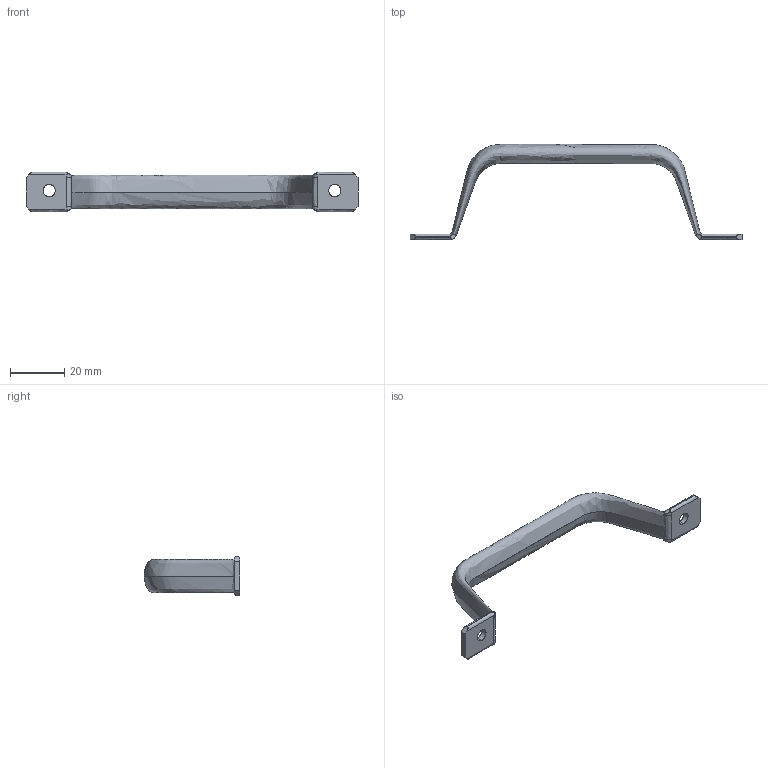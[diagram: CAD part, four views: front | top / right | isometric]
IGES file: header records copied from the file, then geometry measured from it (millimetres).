
Start section: SolidWorks IGES FILE using analytic representation for surfaces
Global section: file name: C:\Documents and Settings\lecoutey\Bureau\PX 396\PX 396.IGS; native system: SolidWorks 2004 by SolidWorks Corporation; preprocessor: Version 5.3; author: lecoutey; date: 050408.173013; units: millimetre
Bounding box: 122 x 35.2 x 14.5 mm (x, y, z)
Surface area: 4822.4 mm2 (no closed solid volume)
Topology: 0 solids, 0 shells, 52 faces, 850 edges, 849 vertices
Faces by surface type: bspline 36, revolution 16
